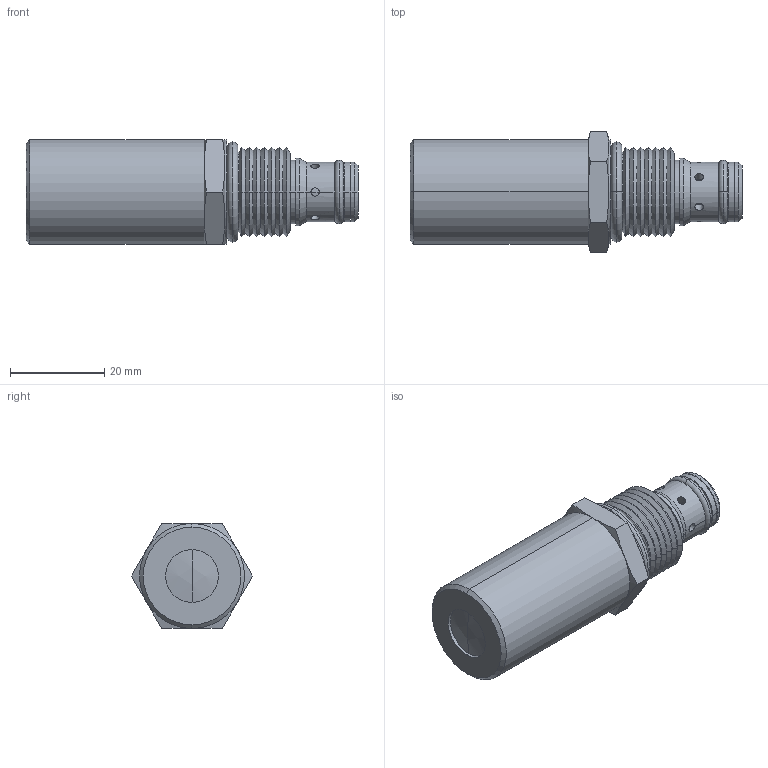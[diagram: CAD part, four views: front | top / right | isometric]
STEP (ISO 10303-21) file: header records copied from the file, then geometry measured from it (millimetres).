
FILE_DESCRIPTION((''),'2;1');
FILE_NAME('U:\Solid model CD\Solid model full\Mechanical\STEP\PBRWD0T-3D Full.stp','2008-07-29T09:55:08',('Dan'),(''),'Autodesk Inventor 9','Autodesk Inventor 9','');
FILE_SCHEMA(('AUTOMOTIVE_DESIGN { 1 0 10303 214 1 1 1 1 }'));
Length unit declared in the file: inch
Products named in the file (5): PBRWD0T-3D Full; PBRWD0T-3D Full1; PBRWD0T-3D Full2; PBRWD0T-3D Full3; PBRWD0T-3D Full4
Assembly tree (4 placements, depth 2):
  PBRWD0T-3D Full
    PBRWD0T-3D Full1
    PBRWD0T-3D Full2
    PBRWD0T-3D Full3
    PBRWD0T-3D Full4
Bounding box: 70.31 x 25.66 x 22.23 mm (x, y, z)
Volume: 21776.2 mm3; surface area: 6679.3 mm2
Topology: 4 solids, 5 shells, 129 faces, 285 edges, 167 vertices
Faces by surface type: cone 52, cylinder 44, plane 21, torus 8, sphere 2, bspline 2
Entity records: 4028 total; most frequent: CARTESIAN_POINT 1074, DIRECTION 628, ORIENTED_EDGE 570, EDGE_CURVE 285, AXIS2_PLACEMENT_3D 267, VERTEX_POINT 167, EDGE_LOOP 150, CIRCLE 131
